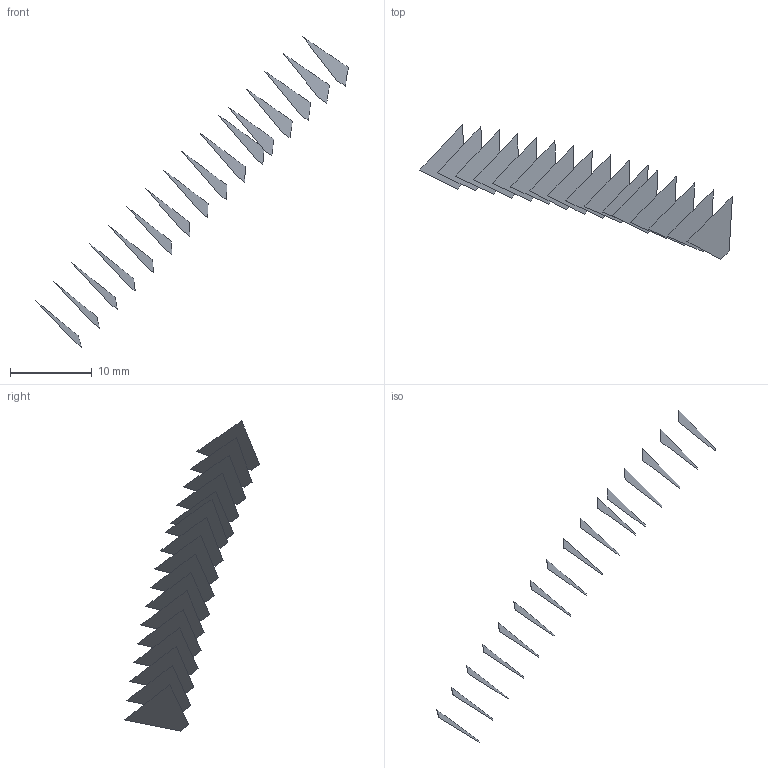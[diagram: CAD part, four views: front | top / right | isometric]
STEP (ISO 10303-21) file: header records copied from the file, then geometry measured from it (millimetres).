
FILE_DESCRIPTION(('FreeCAD Model'),'2;1');
FILE_NAME('Open CASCADE Shape Model','2022-05-22T07:50:31',('FreeCAD'),( 'FreeCAD'),'Open CASCADE STEP processor 7.5','FreeCAD','Unknown');
FILE_SCHEMA(('AUTOMOTIVE_DESIGN { 1 0 10303 214 1 1 1 1 }'));
Length unit declared in the file: millimetre
Products named in the file (17): Open CASCADE STEP translator 7.5 7; Open CASCADE STEP translator 7.5 7.1; Open CASCADE STEP translator 7.5 7.2; Open CASCADE STEP translator 7.5 7.3; Open CASCADE STEP translator 7.5 7.4; Open CASCADE STEP translator 7.5 7.5; Open CASCADE STEP translator 7.5 7.6; Open CASCADE STEP translator 7.5 7.7; Open CASCADE STEP translator 7.5 7.8; Open CASCADE STEP translator 7.5 7.9; Open CASCADE STEP translator 7.5 7.10; Open CASCADE STEP translator 7.5 7.11; Open CASCADE STEP translator 7.5 7.12; Open CASCADE STEP translator 7.5 7.13; Open CASCADE STEP translator 7.5 7.14; Open CASCADE STEP translator 7.5 7.15; Open CASCADE STEP translator 7.5 7.16
Assembly tree (16 placements, depth 2):
  Open CASCADE STEP translator 7.5 7
    Open CASCADE STEP translator 7.5 7.1
    Open CASCADE STEP translator 7.5 7.2
    Open CASCADE STEP translator 7.5 7.3
    Open CASCADE STEP translator 7.5 7.4
    Open CASCADE STEP translator 7.5 7.5
    Open CASCADE STEP translator 7.5 7.6
    Open CASCADE STEP translator 7.5 7.7
    Open CASCADE STEP translator 7.5 7.8
    Open CASCADE STEP translator 7.5 7.9
    Open CASCADE STEP translator 7.5 7.10
    Open CASCADE STEP translator 7.5 7.11
    Open CASCADE STEP translator 7.5 7.12
    Open CASCADE STEP translator 7.5 7.13
    Open CASCADE STEP translator 7.5 7.14
    Open CASCADE STEP translator 7.5 7.15
    Open CASCADE STEP translator 7.5 7.16
Bounding box: 38.24 x 16.52 x 37.91 mm (x, y, z)
Surface area: 505.6 mm2 (no closed solid volume)
Topology: 0 solids, 16 shells, 16 faces, 297 edges, 297 vertices
Faces by surface type: bspline 16
Entity records: 4325 total; most frequent: CARTESIAN_POINT 1566, B_SPLINE_CURVE_WITH_KNOTS 594, ORIENTED_EDGE 297, EDGE_CURVE 297, VERTEX_POINT 297, SURFACE_CURVE 297, PCURVE 297, DEFINITIONAL_REPRESENTATION 297
